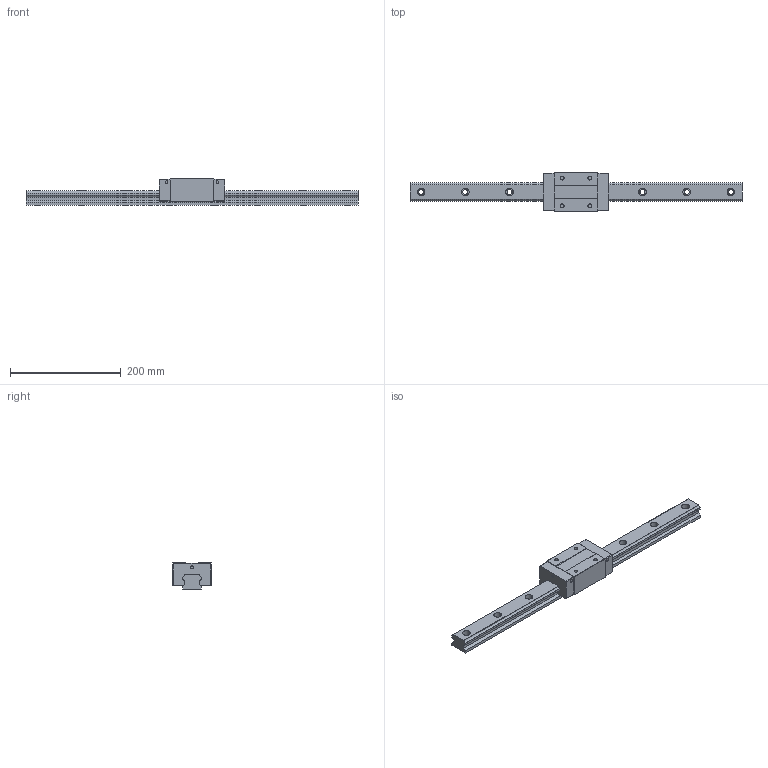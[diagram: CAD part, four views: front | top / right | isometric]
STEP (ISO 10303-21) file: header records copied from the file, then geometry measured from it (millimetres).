
FILE_DESCRIPTION (( 'STEP AP203' ), '1' );
FILE_NAME ('TRS35VN-ZN.STEP', '2024-06-13T00:45:15', ( '' ), ( '' ), 'SwSTEP 2.0', 'SolidWorks 2022', '' );
FILE_SCHEMA (( 'CONFIG_CONTROL_DESIGN' ));
Length unit declared in the file: millimetre
Products named in the file (1): TRS35VN-ZN
Bounding box: 600 x 70 x 48 mm (x, y, z)
Volume: 709300.3 mm3; surface area: 119160 mm2
Topology: 2 solids, 2 shells, 178 faces, 464 edges, 308 vertices
Faces by surface type: plane 90, cylinder 88
Entity records: 5619 total; most frequent: DIRECTION 998, CARTESIAN_POINT 951, ORIENTED_EDGE 928, EDGE_CURVE 464, AXIS2_PLACEMENT_3D 355, VERTEX_POINT 308, LINE 288, VECTOR 288
